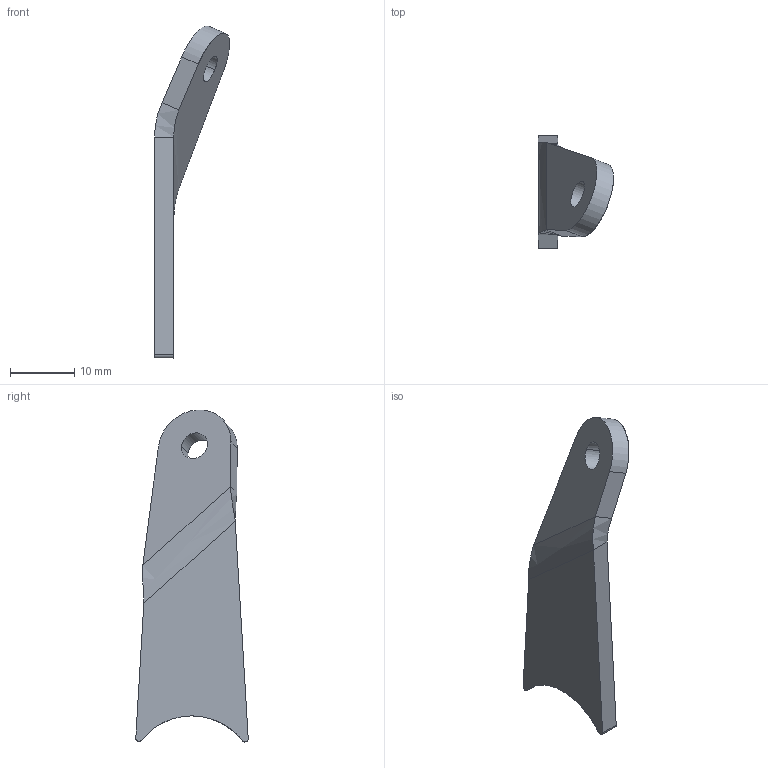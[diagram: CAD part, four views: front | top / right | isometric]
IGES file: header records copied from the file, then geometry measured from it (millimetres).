
Start section: START RECORD GO HERE.
Global section: file name: 20M_EN_04009 (Chapes reservoir de carburant 4).igs; native system: IBM CATIA IGES - CATIA Version 5 Release 19 ; preprocessor: CATIA Version 5 Release 19 ; author: mik75; organization: LAPTOP-SUH344G9; date: 20200115.173659; units: millimetre
Bounding box: 11.7 x 17.53 x 51.73 mm (x, y, z)
Surface area: 1814.9 mm2 (no closed solid volume)
Topology: 0 solids, 0 shells, 19 faces, 86 edges, 86 vertices
Faces by surface type: plane 8, revolution 7, extrusion 2, bspline 2
